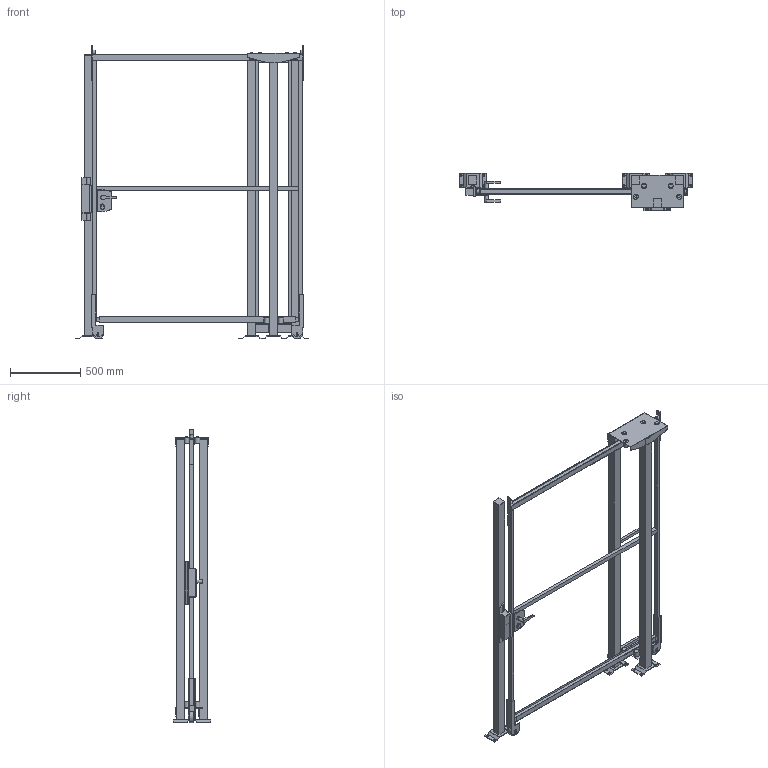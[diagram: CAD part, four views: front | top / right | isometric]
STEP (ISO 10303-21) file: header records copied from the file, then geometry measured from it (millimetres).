
FILE_DESCRIPTION(/* description */ (''),/* implementation_level */ '2;1');
FILE_NAME(/* name */ 'C:\SafeGuarding\ELABORATI\KLADKOUGAMMA_2025-03-20-12-52-24.stp',/* time_stamp */ '2025-03-20T12:52:26+01:00',/* author */ ('admin'),/* organization */ (''),/* preprocessor_version */ 'ST-DEVELOPER v18.1',/* originating_system */ 'AutoCAD Mechanical',/* authorisation */ '');
FILE_SCHEMA (('AUTOMOTIVE_DESIGN { 1 0 10303 214 3 1 1 }','FEATURE_BASED_PROCESS_PLANNING','PROCESS_PLANNING_SCHEMA'));
Length unit declared in the file: millimetre
Products named in the file (4): Product; R_VFPA.REPE30.15001900; R_VFPA.REPE20.02501900; P_VFMA.V260SDU.2020
Assembly tree (6 placements, depth 2):
  Product
    R_VFPA.REPE30.15001900
    P_VFMA.V260SDU.2020  x4
    R_VFPA.REPE20.02501900
Bounding box: 1662 x 264 x 2090.02 mm (x, y, z)
Volume: 42060357.4 mm3; surface area: 5083960.9 mm2
Topology: 61 solids, 61 shells, 558 faces, 1659 edges, 1676 vertices
Faces by surface type: plane 480, cylinder 74, bspline 4
Full cylindrical faces by diameter (mm): 9 x4, 11 x16, 13 x4, 18 x1, 25 x2, 25.398 x2, 30 x6, 36 x8, 80 x2
Entity records: 17119 total; most frequent: CARTESIAN_POINT 4603, DIRECTION 2547, ORIENTED_EDGE 2158, EDGE_CURVE 1079, LINE 1079, VECTOR 1079, AXIS2_PLACEMENT_3D 734, VERTEX_POINT 726
